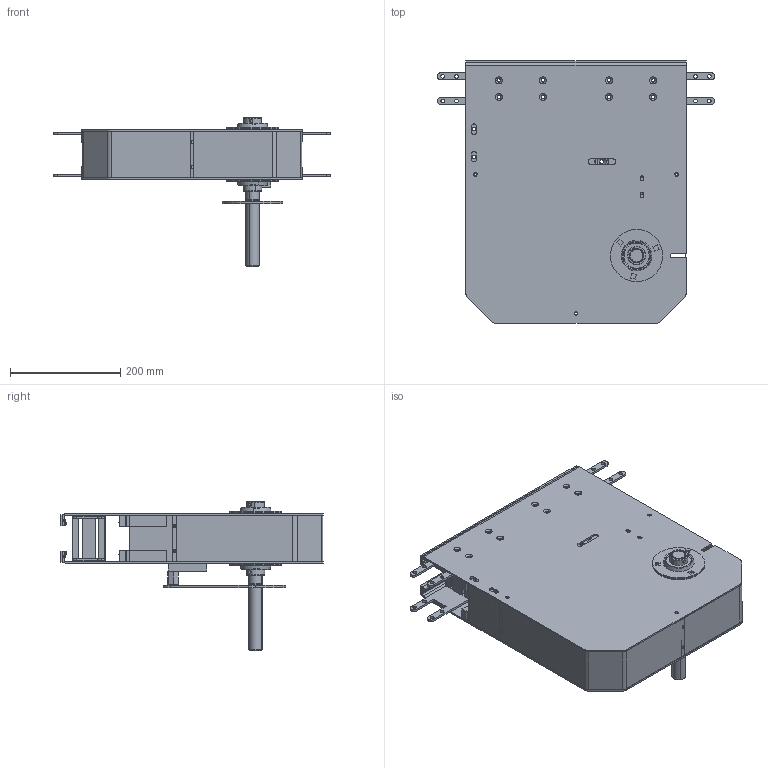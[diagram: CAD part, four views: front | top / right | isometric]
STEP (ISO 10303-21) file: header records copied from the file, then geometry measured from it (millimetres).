
FILE_DESCRIPTION (( 'STEP AP203' ), '1' );
FILE_NAME ('2000.325.963.STEP', '2015-04-08T14:55:24', ( '' ), ( '' ), 'SwSTEP 2.0', 'SolidWorks 2012', '' );
FILE_SCHEMA (( 'CONFIG_CONTROL_DESIGN' ));
Length unit declared in the file: millimetre
Products named in the file (1): 2000.325.963
Bounding box: 503 x 476 x 270.5 mm (x, y, z)
Surface area: 1267243.5 mm2 (no closed solid volume)
Topology: 0 solids, 92 shells, 700 faces, 2416 edges, 1781 vertices
Faces by surface type: cylinder 316, plane 314, cone 48, torus 14, bspline 8
Entity records: 27481 total; most frequent: CARTESIAN_POINT 5776, DIRECTION 4771, ORIENTED_EDGE 3814, EDGE_CURVE 2416, VERTEX_POINT 1781, AXIS2_PLACEMENT_3D 1700, LINE 1371, VECTOR 1371
